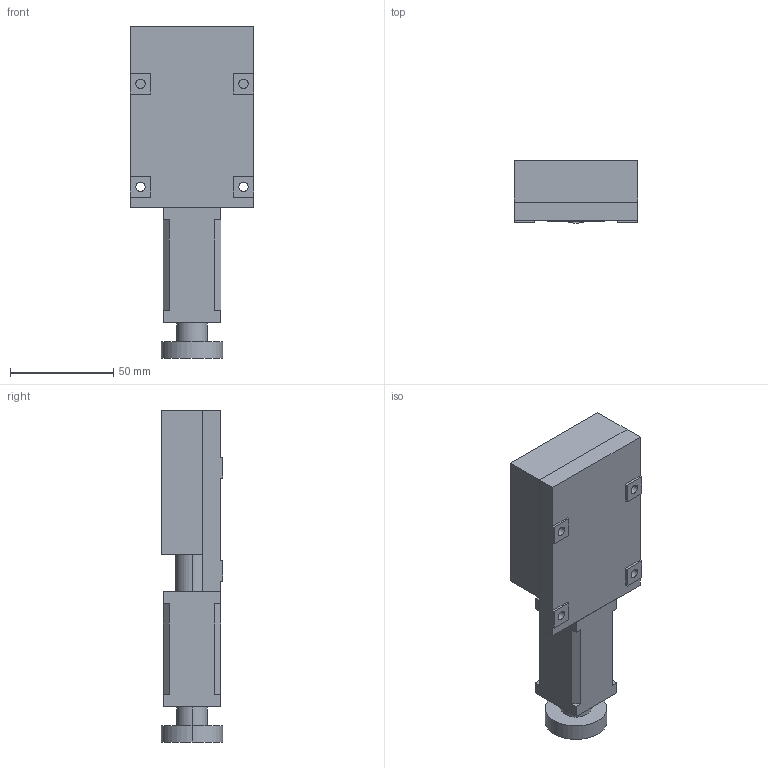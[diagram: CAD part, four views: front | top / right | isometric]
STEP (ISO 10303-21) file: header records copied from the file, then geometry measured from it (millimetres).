
FILE_DESCRIPTION (( 'STEP AP203' ), '1' );
FILE_NAME ('PP110-30H.STEP', '2022-08-21T09:49:24', ( '' ), ( '' ), 'SwSTEP 2.0', 'SolidWorks 2020', '' );
FILE_SCHEMA (( 'CONFIG_CONTROL_DESIGN' ));
Length unit declared in the file: millimetre
Products named in the file (4): 錨璃7^PP110-30H; 錨璃5^PP110-30H; PP110-30H; 錨璃4^PP110-30H
Assembly tree (3 placements, depth 2):
  PP110-30H
    錨璃4^PP110-30H
    錨璃5^PP110-30H
    錨璃7^PP110-30H
Bounding box: 60 x 30 x 161 mm (x, y, z)
Volume: 190363.5 mm3; surface area: 40846.4 mm2
Topology: 3 solids, 3 shells, 266 faces, 711 edges, 474 vertices
Faces by surface type: plane 160, bspline 76, cylinder 30
Entity records: 11781 total; most frequent: CARTESIAN_POINT 5149, ORIENTED_EDGE 1422, DIRECTION 1011, EDGE_CURVE 711, LINE 499, VECTOR 499, VERTEX_POINT 474, EDGE_LOOP 305
